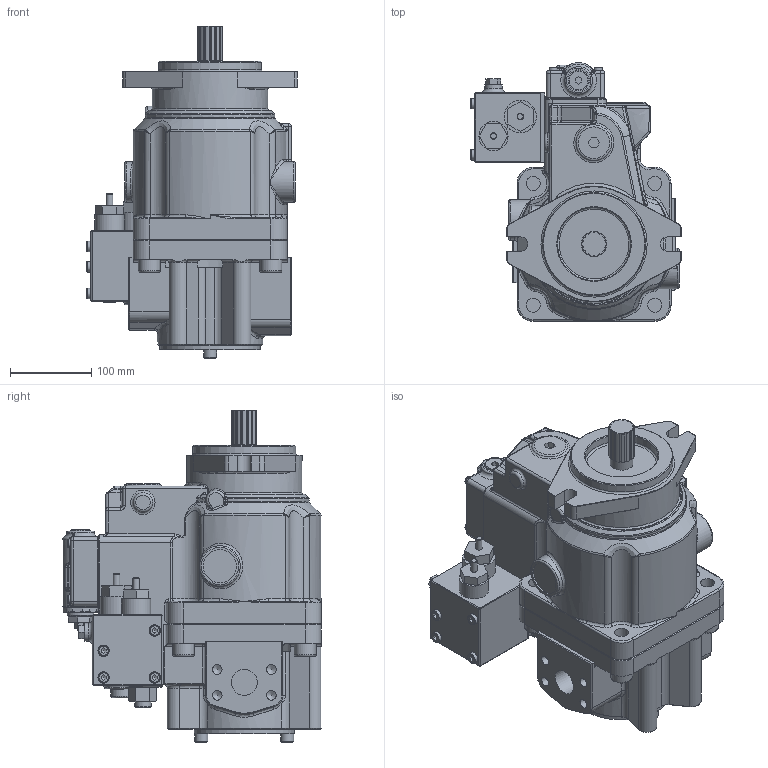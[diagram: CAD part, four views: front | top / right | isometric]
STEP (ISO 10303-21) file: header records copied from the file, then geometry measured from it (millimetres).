
FILE_DESCRIPTION((''),'2;1');
FILE_NAME('I:\3D Step files\Approved for WEB\K3V\K3VL112B 1NRCS L1 1-H1.stp','2011-12-22T11:25:51',('mnorman'),(''),'Autodesk Inventor 2012','Autodesk Inventor 2012','');
FILE_SCHEMA(('AUTOMOTIVE_DESIGN { 1 0 10303 214 1 1 1 1 }'));
Length unit declared in the file: millimetre
Products named in the file (1): Part18
Bounding box: 259.5 x 318.97 x 409.42 mm (x, y, z)
Volume: 10116873.4 mm3; surface area: 715719.4 mm2
Topology: 1 solids, 24 shells, 1407 faces, 3292 edges, 1966 vertices
Faces by surface type: plane 580, cylinder 355, bspline 171, cone 170, torus 106, sphere 25
Full cylindrical faces by diameter (mm): 4.917 x4, 6 x4, 6.6 x4, 6.647 x6, 8 x8, 9 x4, 10 x6, 10.106 x8, 11 x6, 11.835 x4, 13 x4, 14 x4, 16 x4, 17.294 x5, 19.177 x1, 20 x2, 22 x5, 24 x2, 26 x1, 27 x5, 28 x1, 30 x1, 32 x6, 33 x2, 36 x1, 40 x1, 41 x2, 44 x1, 47 x1, 50 x1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
Entity records: 47426 total; most frequent: CARTESIAN_POINT 16170, DIRECTION 6127, ORIENTED_EDGE 5988, EDGE_CURVE 2994, AXIS2_PLACEMENT_3D 2411, VERTEX_POINT 1892, EDGE_LOOP 1688, STYLED_ITEM 1409
